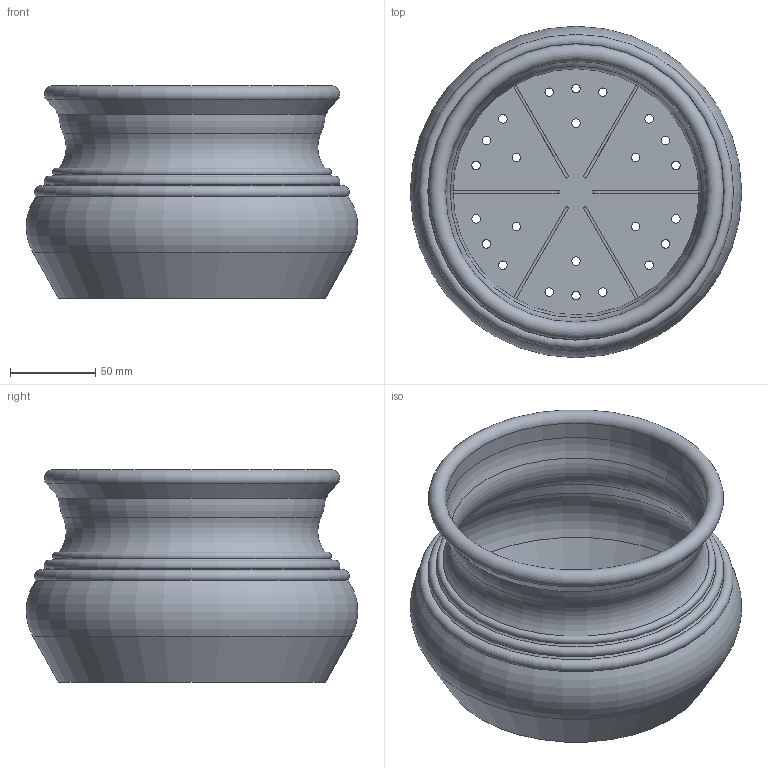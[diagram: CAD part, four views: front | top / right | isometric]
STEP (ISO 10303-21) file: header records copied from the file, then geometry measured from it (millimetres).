
FILE_DESCRIPTION(/* description */ (''),/* implementation_level */ '2;1');
FILE_NAME(/* name */ 'LR2406-S17-H125-D200_step.step',/* time_stamp */ '2024-02-01T11:23:45+01:00',/* author */ (''),/* organization */ (''),/* preprocessor_version */ 'ST-DEVELOPER v20',/* originating_system */ 'Autodesk Translation Framework v12.20.1.177',/* authorisation */ '');
FILE_SCHEMA (('AUTOMOTIVE_DESIGN { 1 0 10303 214 3 1 1 }'));
Length unit declared in the file: millimetre
Products named in the file (1): LR2406-S17-H125-D200
Bounding box: 194.71 x 194.71 x 125 mm (x, y, z)
Volume: 221139.7 mm3; surface area: 194459.4 mm2
Topology: 1 solids, 1 shells, 68 faces, 181 edges, 115 vertices
Faces by surface type: cylinder 31, plane 20, torus 10, cone 7
Full cylindrical faces by diameter (mm): 5 x24, 153.36 x1
Entity records: 2286 total; most frequent: DIRECTION 420, CARTESIAN_POINT 365, ORIENTED_EDGE 362, EDGE_CURVE 181, AXIS2_PLACEMENT_3D 170, EDGE_LOOP 116, VERTEX_POINT 115, CIRCLE 101
